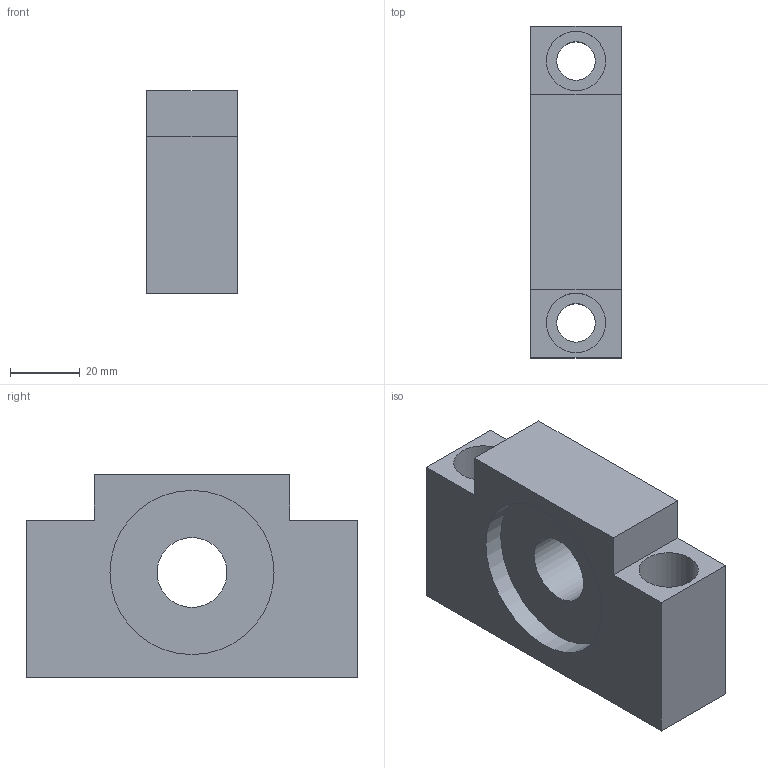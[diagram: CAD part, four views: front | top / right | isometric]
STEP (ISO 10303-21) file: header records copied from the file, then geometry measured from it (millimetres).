
FILE_DESCRIPTION((''),'2;1');
FILE_NAME('D:\製品 (図面)\カタログ用3D\ネジ関連\STEP形式\FH\FH20.stp','2010-06-01T16:44:24',('Tsuchiya'),(''),'Autodesk Inventor 10','Autodesk Inventor 10','');
FILE_SCHEMA(('AUTOMOTIVE_DESIGN { 1 0 10303 214 1 1 1 1 }'));
Length unit declared in the file: millimetre
Products named in the file (1): FH20
Bounding box: 26 x 95 x 58 mm (x, y, z)
Volume: 92351 mm3; surface area: 23279.8 mm2
Topology: 1 solids, 1 shells, 21 faces, 45 edges, 30 vertices
Faces by surface type: plane 12, bspline 6, cylinder 3
Full cylindrical faces by diameter (mm): 20 x1, 47 x2
Entity records: 625 total; most frequent: CARTESIAN_POINT 164, DIRECTION 84, ORIENTED_EDGE 76, EDGE_CURVE 38, EDGE_LOOP 38, AXIS2_PLACEMENT_3D 30, VERTEX_POINT 30, VECTOR 24
